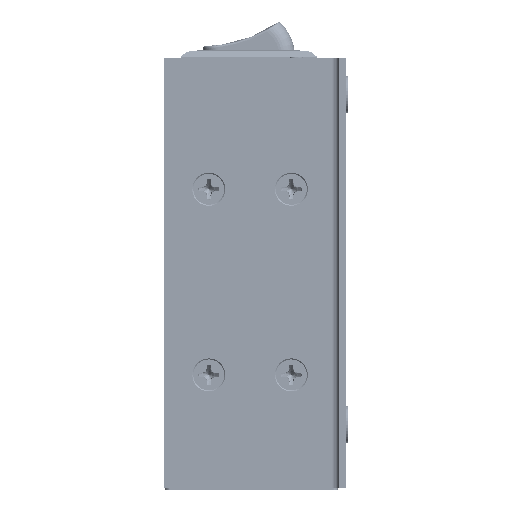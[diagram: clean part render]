
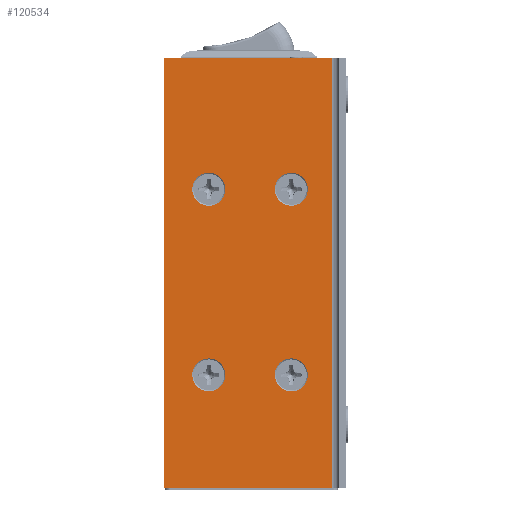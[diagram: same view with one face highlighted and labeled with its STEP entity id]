
A CAD part, left-side view. The second image highlights one B-rep face of the part: STEP entity #120534.
In plain terms, the highlighted planar face has unit normal (-1, 0, 0).
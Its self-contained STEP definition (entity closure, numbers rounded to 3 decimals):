
#1257=FACE_BOUND('',#14118,.T.);
#1258=FACE_BOUND('',#14119,.T.);
#1259=FACE_BOUND('',#14120,.T.);
#1260=FACE_BOUND('',#14121,.T.);
#1659=PLANE('',#127438);
#7662=FACE_OUTER_BOUND('',#14117,.T.);
#14117=EDGE_LOOP('',(#83395,#83396,#83397,#83398));
#14118=EDGE_LOOP('',(#83399));
#14119=EDGE_LOOP('',(#83400));
#14120=EDGE_LOOP('',(#83401));
#14121=EDGE_LOOP('',(#83402));
#20974=LINE('',#171383,#35111);
#20977=LINE('',#171389,#35114);
#20978=LINE('',#171391,#35115);
#20979=LINE('',#171392,#35116);
#35111=VECTOR('',#137420,2.442);
#35114=VECTOR('',#137425,10.);
#35115=VECTOR('',#137426,2.442);
#35116=VECTOR('',#137427,10.);
#49245=CIRCLE('',#127423,4.);
#49247=CIRCLE('',#127426,4.);
#49249=CIRCLE('',#127429,4.);
#49251=CIRCLE('',#127432,4.);
#52785=VERTEX_POINT('',#171347);
#52787=VERTEX_POINT('',#171353);
#52789=VERTEX_POINT('',#171359);
#52791=VERTEX_POINT('',#171365);
#52797=VERTEX_POINT('',#171380);
#52798=VERTEX_POINT('',#171382);
#52800=VERTEX_POINT('',#171388);
#52801=VERTEX_POINT('',#171390);
#64830=EDGE_CURVE('',#52785,#52785,#49245,.T.);
#64833=EDGE_CURVE('',#52787,#52787,#49247,.T.);
#64836=EDGE_CURVE('',#52789,#52789,#49249,.T.);
#64839=EDGE_CURVE('',#52791,#52791,#49251,.T.);
#64847=EDGE_CURVE('',#52798,#52797,#20974,.T.);
#64850=EDGE_CURVE('',#52797,#52800,#20977,.T.);
#64851=EDGE_CURVE('',#52801,#52800,#20978,.T.);
#64852=EDGE_CURVE('',#52801,#52798,#20979,.T.);
#83395=ORIENTED_EDGE('',*,*,#64850,.T.);
#83396=ORIENTED_EDGE('',*,*,#64851,.F.);
#83397=ORIENTED_EDGE('',*,*,#64852,.T.);
#83398=ORIENTED_EDGE('',*,*,#64847,.T.);
#83399=ORIENTED_EDGE('',*,*,#64830,.T.);
#83400=ORIENTED_EDGE('',*,*,#64833,.T.);
#83401=ORIENTED_EDGE('',*,*,#64836,.T.);
#83402=ORIENTED_EDGE('',*,*,#64839,.T.);
#120534=ADVANCED_FACE('',(#7662,#1257,#1258,#1259,#1260),#1659,.F.);
#127423=AXIS2_PLACEMENT_3D('',#171348,#137383,#137384);
#127426=AXIS2_PLACEMENT_3D('',#171354,#137390,#137391);
#127429=AXIS2_PLACEMENT_3D('',#171360,#137397,#137398);
#127432=AXIS2_PLACEMENT_3D('',#171366,#137404,#137405);
#127438=AXIS2_PLACEMENT_3D('',#171387,#137423,#137424);
#137383=DIRECTION('center_axis',(1.,0.,0.));
#137384=DIRECTION('ref_axis',(0.,-1.,0.));
#137390=DIRECTION('center_axis',(1.,0.,0.));
#137391=DIRECTION('ref_axis',(0.,-1.,0.));
#137397=DIRECTION('center_axis',(1.,0.,0.));
#137398=DIRECTION('ref_axis',(0.,-1.,0.));
#137404=DIRECTION('center_axis',(1.,0.,0.));
#137405=DIRECTION('ref_axis',(0.,-1.,0.));
#137420=DIRECTION('',(0.,-1.,0.));
#137423=DIRECTION('center_axis',(1.,0.,0.));
#137424=DIRECTION('ref_axis',(0.,0.,-1.));
#137425=DIRECTION('',(0.,0.,1.));
#137426=DIRECTION('',(0.,-1.,0.));
#137427=DIRECTION('',(0.,0.,-1.));
#171347=CARTESIAN_POINT('',(-13.65,17.2,-14.8));
#171348=CARTESIAN_POINT('Origin',(-13.65,13.2,-14.8));
#171353=CARTESIAN_POINT('',(-13.65,37.2,-14.8));
#171354=CARTESIAN_POINT('Origin',(-13.65,33.2,-14.8));
#171359=CARTESIAN_POINT('',(-13.65,37.2,-59.8));
#171360=CARTESIAN_POINT('Origin',(-13.65,33.2,-59.8));
#171365=CARTESIAN_POINT('',(-13.65,17.2,-59.8));
#171366=CARTESIAN_POINT('Origin',(-13.65,13.2,-59.8));
#171380=CARTESIAN_POINT('',(-13.65,3.3,-87.2));
#171382=CARTESIAN_POINT('',(-13.65,44.,-87.2));
#171383=CARTESIAN_POINT('',(-13.65,-4.372,-87.2));
#171387=CARTESIAN_POINT('Origin',(-13.65,21.732,-35.1));
#171388=CARTESIAN_POINT('',(-13.65,3.3,17.));
#171389=CARTESIAN_POINT('',(-13.65,3.3,-35.1));
#171390=CARTESIAN_POINT('',(-13.65,44.,17.));
#171391=CARTESIAN_POINT('',(-13.65,-4.372,17.));
#171392=CARTESIAN_POINT('',(-13.65,44.,17.));
